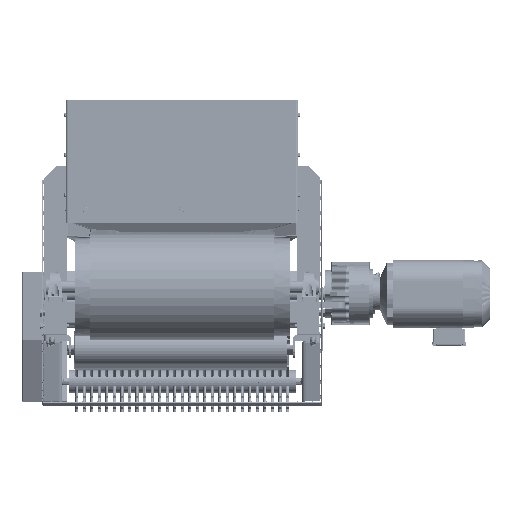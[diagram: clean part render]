
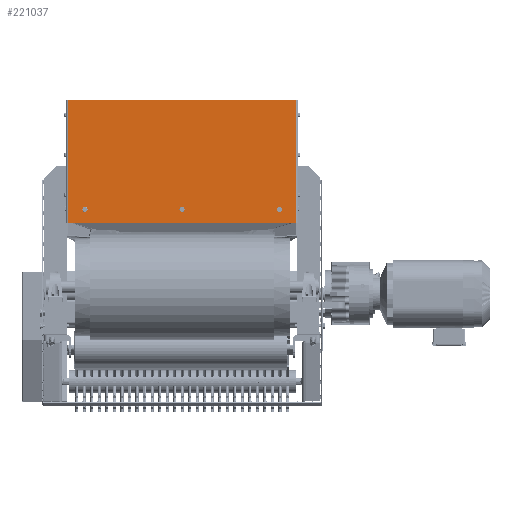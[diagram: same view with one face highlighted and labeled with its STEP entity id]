
A CAD part, top view. The second image highlights one B-rep face of the part: STEP entity #221037.
In plain terms, the highlighted planar face has unit normal (0, 0, 1) as drawn and (0, 0, -1) by its records, which use the part's own axes.
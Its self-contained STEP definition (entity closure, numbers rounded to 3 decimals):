
#220597=CARTESIAN_POINT('',(-323.,-157.0,-1.5));
#220598=VERTEX_POINT('',#220597);
#220599=CARTESIAN_POINT('',(-317.0,-157.0,-1.5));
#220600=DIRECTION('',(0.0,0.0,1.0));
#220601=DIRECTION('',(-1.0,0.0,0.0));
#220602=AXIS2_PLACEMENT_3D('',#220599,#220600,#220601);
#220603=CIRCLE('',#220602,6.);
#220604=EDGE_CURVE('',#220598,#220598,#220603,.T.);
#220625=CARTESIAN_POINT('',(-6.,-157.0,-1.5));
#220626=VERTEX_POINT('',#220625);
#220627=CARTESIAN_POINT('',(0.0,-157.0,-1.5));
#220628=DIRECTION('',(0.0,0.0,1.0));
#220629=DIRECTION('',(-1.0,0.0,0.0));
#220630=AXIS2_PLACEMENT_3D('',#220627,#220628,#220629);
#220631=CIRCLE('',#220630,6.);
#220632=EDGE_CURVE('',#220626,#220626,#220631,.T.);
#220653=CARTESIAN_POINT('',(311.0,-157.0,-1.5));
#220654=VERTEX_POINT('',#220653);
#220655=CARTESIAN_POINT('',(317.0,-157.0,-1.5));
#220656=DIRECTION('',(0.0,0.0,1.0));
#220657=DIRECTION('',(-1.0,0.0,0.0));
#220658=AXIS2_PLACEMENT_3D('',#220655,#220656,#220657);
#220659=CIRCLE('',#220658,6.);
#220660=EDGE_CURVE('',#220654,#220654,#220659,.T.);
#220671=CARTESIAN_POINT('',(372.,-200.0,-1.5));
#220672=VERTEX_POINT('',#220671);
#220680=CARTESIAN_POINT('',(372.,200.0,-1.5));
#220681=VERTEX_POINT('',#220680);
#220682=CARTESIAN_POINT('',(372.,200.0,-1.5));
#220683=DIRECTION('',(0.0,-1.0,0.0));
#220684=VECTOR('',#220683,400.0);
#220685=LINE('',#220682,#220684);
#220686=EDGE_CURVE('',#220681,#220672,#220685,.T.);
#220832=CARTESIAN_POINT('',(-372.,200.0,-1.5));
#220833=VERTEX_POINT('',#220832);
#220841=CARTESIAN_POINT('',(-372.,-200.0,-1.5));
#220842=VERTEX_POINT('',#220841);
#220843=CARTESIAN_POINT('',(-372.,-200.0,-1.5));
#220844=DIRECTION('',(0.0,1.0,0.0));
#220845=VECTOR('',#220844,400.0);
#220846=LINE('',#220843,#220845);
#220847=EDGE_CURVE('',#220842,#220833,#220846,.T.);
#220996=CARTESIAN_POINT('',(-372.,-200.0,-1.5));
#220997=DIRECTION('',(1.0,0.0,0.0));
#220998=VECTOR('',#220997,744.);
#220999=LINE('',#220996,#220998);
#221000=EDGE_CURVE('',#220842,#220672,#220999,.T.);
#221012=CARTESIAN_POINT('',(0.0,0.0,-1.5));
#221013=DIRECTION('',(0.0,0.0,1.0));
#221014=DIRECTION('',(1.0,0.0,0.0));
#221015=AXIS2_PLACEMENT_3D('',#221012,#221013,#221014);
#221016=PLANE('',#221015);
#221017=ORIENTED_EDGE('',*,*,#220847,.T.);
#221018=CARTESIAN_POINT('',(372.,200.0,-1.5));
#221019=DIRECTION('',(-1.0,0.0,0.0));
#221020=VECTOR('',#221019,744.);
#221021=LINE('',#221018,#221020);
#221022=EDGE_CURVE('',#220681,#220833,#221021,.T.);
#221023=ORIENTED_EDGE('',*,*,#221022,.F.);
#221024=ORIENTED_EDGE('',*,*,#220686,.T.);
#221025=ORIENTED_EDGE('',*,*,#221000,.F.);
#221026=EDGE_LOOP('',(#221017,#221023,#221024,#221025));
#221027=FACE_OUTER_BOUND('',#221026,.T.);
#221028=ORIENTED_EDGE('',*,*,#220604,.T.);
#221029=EDGE_LOOP('',(#221028));
#221030=FACE_BOUND('',#221029,.T.);
#221031=ORIENTED_EDGE('',*,*,#220632,.T.);
#221032=EDGE_LOOP('',(#221031));
#221033=FACE_BOUND('',#221032,.T.);
#221034=ORIENTED_EDGE('',*,*,#220660,.T.);
#221035=EDGE_LOOP('',(#221034));
#221036=FACE_BOUND('',#221035,.T.);
#221037=ADVANCED_FACE('',(#221027,#221030,#221033,#221036),#221016,.F.);
